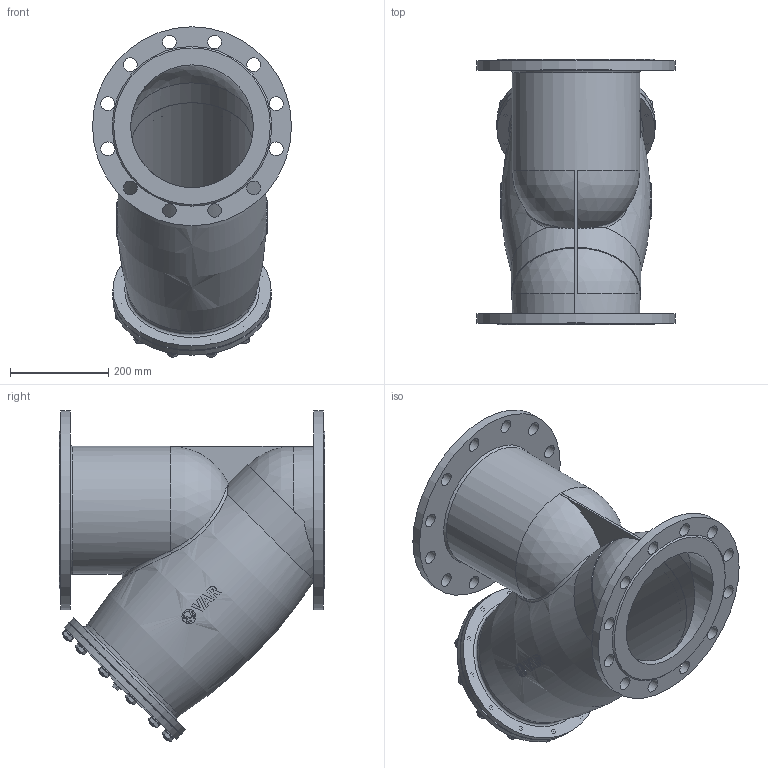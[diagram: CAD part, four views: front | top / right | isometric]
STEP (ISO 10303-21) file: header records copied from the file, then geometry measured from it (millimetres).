
FILE_DESCRIPTION(('STEP AP203'), '1');
FILE_NAME('VAR STRAINER ôèëüòð-ãðÿçåóëîâèòåëü', '', ('UNSPECIFIED'), ('UNSPECIFIED'), 'C3D Converter', 'C3D Toolkit', '');
FILE_SCHEMA(('CONFIG_CONTROL_DESIGN'));
Length unit declared in the file: millimetre
Assembly tree (41 placements, depth 2):
  (unnamed)
    (unnamed)
    (unnamed)
    (unnamed)  x12
    (unnamed)  x12
    (unnamed)  x12
    (unnamed)
    (unnamed)
    (unnamed)
Bounding box: 405 x 540 x 672.5 mm (x, y, z)
Volume: 8839970.3 mm3; surface area: 2647582.4 mm2
Topology: 42 solids, 42 shells, 673 faces, 1604 edges, 1046 vertices
Faces by surface type: plane 273, extrusion 150, cylinder 122, cone 87, torus 27, sphere 8, bspline 6
Full cylindrical faces by diameter (mm): 12 x36, 13 x12, 14 x14, 21 x1, 24 x12, 28 x24, 28.42 x1, 250 x6, 254 x3, 260 x1, 264 x1, 268 x1, 270 x2, 322 x2, 405 x2
Entity records: 29918 total; most frequent: CARTESIAN_POINT 16988, ORIENTED_EDGE 2006, DIRECTION 1551, EDGE_CURVE 1003, VERTEX_POINT 724, EDGE_LOOP 649, B_SPLINE_CURVE_WITH_KNOTS 619, AXIS2_PLACEMENT_3D 560
